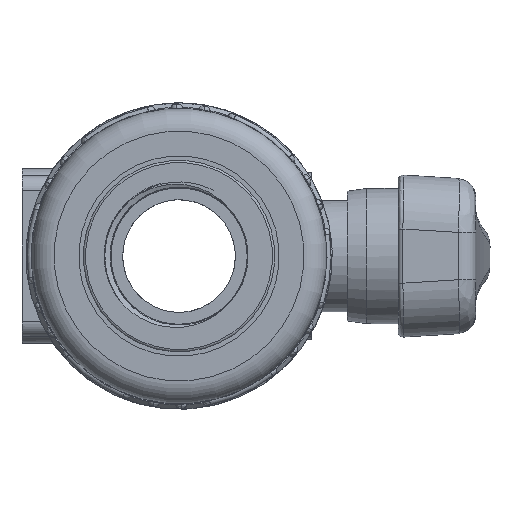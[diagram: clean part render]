
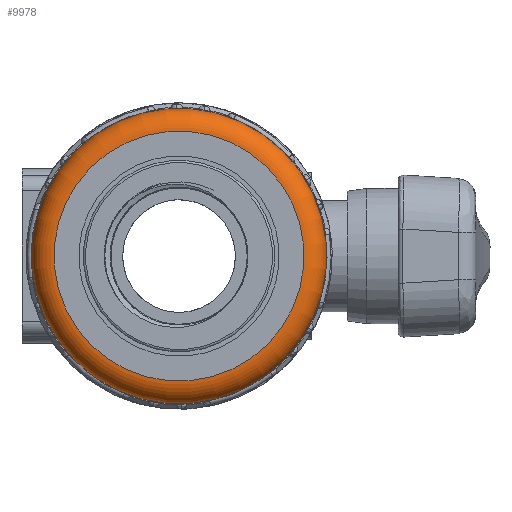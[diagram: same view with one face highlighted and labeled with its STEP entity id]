
A CAD part, front view. The second image highlights one B-rep face of the part: STEP entity #9978.
In plain terms, the highlighted toroidal (fillet/blend) face has major radius 27.75 mm and minor radius 5 mm.
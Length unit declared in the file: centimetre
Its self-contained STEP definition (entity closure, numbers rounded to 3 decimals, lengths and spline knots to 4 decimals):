
#1734=TOROIDAL_SURFACE('',#10671,2.775,0.5);
#1955=FACE_BOUND('',#2827,.T.);
#2231=FACE_OUTER_BOUND('',#2826,.T.);
#2826=EDGE_LOOP('',(#7105));
#2827=EDGE_LOOP('',(#7106));
#3448=CIRCLE('',#10669,2.775);
#3450=CIRCLE('',#10672,3.275);
#4088=VERTEX_POINT('',#40278);
#4090=VERTEX_POINT('',#40283);
#5219=EDGE_CURVE('',#4088,#4088,#3448,.T.);
#5221=EDGE_CURVE('',#4090,#4090,#3450,.T.);
#7105=ORIENTED_EDGE('',*,*,#5221,.F.);
#7106=ORIENTED_EDGE('',*,*,#5219,.T.);
#9978=ADVANCED_FACE('',(#2231,#1955),#1734,.T.);
#10669=AXIS2_PLACEMENT_3D('',#40279,#12113,#12114);
#10671=AXIS2_PLACEMENT_3D('',#40282,#12117,#12118);
#10672=AXIS2_PLACEMENT_3D('',#40284,#12119,#12120);
#12113=DIRECTION('center_axis',(0.,1.,0.));
#12114=DIRECTION('ref_axis',(0.573,0.,0.82));
#12117=DIRECTION('center_axis',(0.,1.,0.));
#12118=DIRECTION('ref_axis',(-0.82,0.,0.573));
#12119=DIRECTION('center_axis',(0.,1.,0.));
#12120=DIRECTION('ref_axis',(0.573,0.,0.82));
#40278=CARTESIAN_POINT('',(-1.5893,-4.,-2.2748));
#40279=CARTESIAN_POINT('Origin',(0.,-4.,0.));
#40282=CARTESIAN_POINT('Origin',(0.,-3.5,0.));
#40283=CARTESIAN_POINT('',(-1.8757,-3.5,-2.6847));
#40284=CARTESIAN_POINT('Origin',(0.,-3.5,0.));
